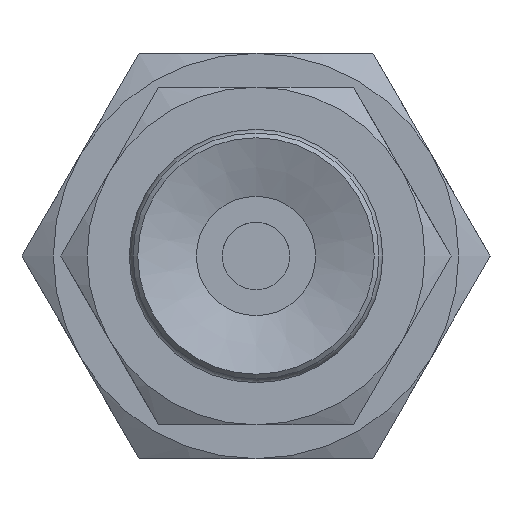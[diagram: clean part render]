
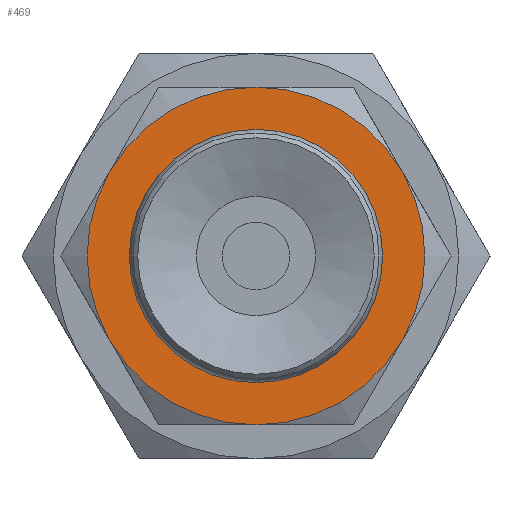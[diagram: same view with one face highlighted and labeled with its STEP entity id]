
A CAD part, front view. The second image highlights one B-rep face of the part: STEP entity #469.
In plain terms, the highlighted planar face has unit normal (0, -1, 0).
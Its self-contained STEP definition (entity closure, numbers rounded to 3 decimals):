
#469=ADVANCED_FACE('',(#692,#693),#694,.T.);
#692=FACE_BOUND('',#1000,.T.);
#693=FACE_OUTER_BOUND('',#1001,.T.);
#694=PLANE('',#1002);
#1000=EDGE_LOOP('',(#1625));
#1001=EDGE_LOOP('',(#1626,#1627,#1628,#1629,#1630,#1631));
#1002=AXIS2_PLACEMENT_3D('',#1632,#1633,#1634);
#1625=ORIENTED_EDGE('',*,*,#2092,.F.);
#1626=ORIENTED_EDGE('',*,*,#2057,.T.);
#1627=ORIENTED_EDGE('',*,*,#2054,.T.);
#1628=ORIENTED_EDGE('',*,*,#2093,.T.);
#1629=ORIENTED_EDGE('',*,*,#2038,.T.);
#1630=ORIENTED_EDGE('',*,*,#2062,.T.);
#1631=ORIENTED_EDGE('',*,*,#2094,.T.);
#1632=CARTESIAN_POINT('',(2.0,0.,0.0));
#1633=DIRECTION('',(0.0,-1.0,0.0));
#1634=DIRECTION('',(0.0,0.0,-1.0));
#2038=EDGE_CURVE('',#2321,#2313,#2323,.T.);
#2054=EDGE_CURVE('',#2352,#2349,#2353,.T.);
#2057=EDGE_CURVE('',#2341,#2352,#2356,.T.);
#2062=EDGE_CURVE('',#2313,#2334,#2365,.T.);
#2092=EDGE_CURVE('',#2418,#2418,#2419,.T.);
#2093=EDGE_CURVE('',#2349,#2321,#2420,.T.);
#2094=EDGE_CURVE('',#2334,#2341,#2421,.T.);
#2313=VERTEX_POINT('',#2969);
#2321=VERTEX_POINT('',#2985);
#2323=CIRCLE('',#2989,5.0);
#2334=VERTEX_POINT('',#3007);
#2341=VERTEX_POINT('',#3021);
#2349=VERTEX_POINT('',#3038);
#2352=VERTEX_POINT('',#3043);
#2353=CIRCLE('',#3044,5.0);
#2356=CIRCLE('',#3051,5.0);
#2365=CIRCLE('',#3074,5.0);
#2418=VERTEX_POINT('',#3187);
#2419=CIRCLE('',#3188,2.0);
#2420=CIRCLE('',#3189,5.0);
#2421=CIRCLE('',#3190,5.0);
#2969=CARTESIAN_POINT('',(-4.33,0.,2.5));
#2985=CARTESIAN_POINT('',(0.0,0.0,5.0));
#2989=AXIS2_PLACEMENT_3D('',#3440,#3441,#3442);
#3007=CARTESIAN_POINT('',(-4.33,0.0,-2.5));
#3021=CARTESIAN_POINT('',(0.0,0.0,-5.0));
#3038=CARTESIAN_POINT('',(4.33,0.0,2.5));
#3043=CARTESIAN_POINT('',(4.33,0.0,-2.5));
#3044=AXIS2_PLACEMENT_3D('',#3449,#3450,#3451);
#3051=AXIS2_PLACEMENT_3D('',#3452,#3453,#3454);
#3074=AXIS2_PLACEMENT_3D('',#3461,#3462,#3463);
#3187=CARTESIAN_POINT('',(0.0,0.,-2.0));
#3188=AXIS2_PLACEMENT_3D('',#3512,#3513,#3514);
#3189=AXIS2_PLACEMENT_3D('',#3515,#3516,#3517);
#3190=AXIS2_PLACEMENT_3D('',#3518,#3519,#3520);
#3440=CARTESIAN_POINT('',(0.0,0.,0.0));
#3441=DIRECTION('',(0.0,-1.0,0.0));
#3442=DIRECTION('',(0.0,0.0,-1.0));
#3449=CARTESIAN_POINT('',(0.0,0.,0.0));
#3450=DIRECTION('',(0.0,-1.0,0.0));
#3451=DIRECTION('',(0.0,0.0,-1.0));
#3452=CARTESIAN_POINT('',(0.0,0.,0.0));
#3453=DIRECTION('',(0.0,-1.0,0.0));
#3454=DIRECTION('',(0.0,0.0,-1.0));
#3461=CARTESIAN_POINT('',(0.0,0.,0.0));
#3462=DIRECTION('',(0.0,-1.0,0.0));
#3463=DIRECTION('',(0.0,0.0,-1.0));
#3512=CARTESIAN_POINT('',(0.0,0.,0.0));
#3513=DIRECTION('',(0.0,-1.0,0.0));
#3514=DIRECTION('',(0.0,0.0,-1.0));
#3515=CARTESIAN_POINT('',(0.0,0.,0.0));
#3516=DIRECTION('',(0.0,-1.0,0.0));
#3517=DIRECTION('',(0.0,0.0,-1.0));
#3518=CARTESIAN_POINT('',(0.0,0.,0.0));
#3519=DIRECTION('',(0.0,-1.0,0.0));
#3520=DIRECTION('',(0.0,0.0,-1.0));
